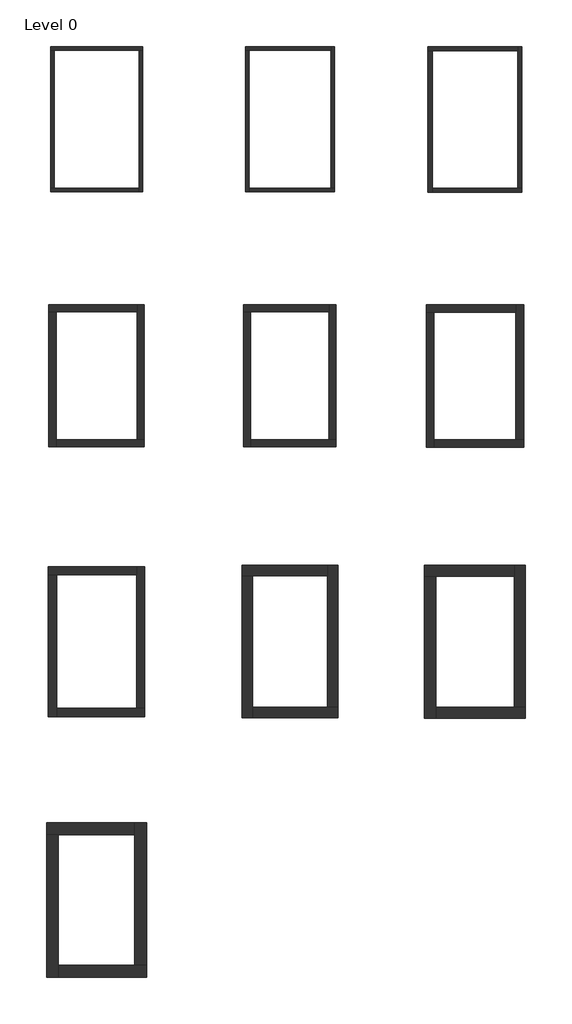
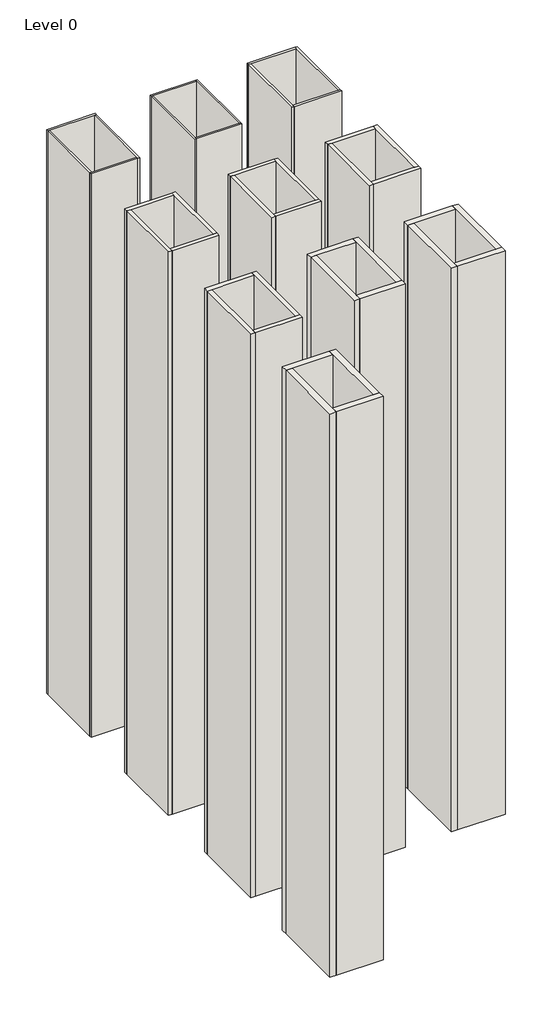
# One storey, incomplete: 40 walls.
"""IFC4 building model written with IfcOpenShell, lengths in millimetres."""

from ifc_helpers import new_model, si_unit, origin, origin_with_axes, place, context, project, spatial, polyline, outline, extrude, faceted_brep, element, save

model = new_model("IFC4")

# Units and contexts
model_context = context("Model", 3, world=origin())
ifc_project = project(units=[si_unit("LENGTHUNIT", "METRE", prefix="MILLI")], contexts=[model_context])

# Site, building, storey
site = spatial("IfcSite", under=ifc_project)
building = spatial("IfcBuilding", under=site)
storey = spatial("IfcBuildingStorey", under=building, Name="Level 0", Elevation=0.0)

# Walls
placement = place(None, origin())
element("IfcWall", 1, ObjectType="D150001 (FL120-1)", at=placement, inside=storey, context=model_context, shape_type="Brep", body=[
    faceted_brep([(-678.8078125, -1024.2025305, 0.0), (-648.8078125, -1024.2025305, 0.0), (-363.8078125, -1024.2025305, 0.0), (-363.8078125, -1024.2025305, 4000.0), (-648.8078125, -1024.2025305, 4000.0), (-678.8078125, -1024.2025305, 4000.0), (-678.8078125, -994.2025305, 0.0), (-678.8078125, -994.2025305, 4000.0), (-363.8078125, -994.2025305, 4000.0), (-363.8078125, -994.2025305, 0.0)], [[[0, 1, 2, 3, 4, 5]], [[6, 7, 8, 9]], [[2, 1, 0, 6, 9]], [[5, 4, 3, 8, 7]], [[0, 5, 7, 6]], [[3, 2, 9, 8]]]),
])
element("IfcWall", 2, ObjectType="D150001 (FL120-1)", at=placement, inside=storey, context=model_context, shape_type="Brep", body=[
    faceted_brep([(-648.8078125, -1530.6175682, 0.0), (-648.8078125, -1500.6175682, 0.0), (-648.8078125, -1024.2025305, 0.0), (-648.8078125, -1024.2025305, 4000.0), (-648.8078125, -1500.6175682, 4000.0), (-648.8078125, -1530.6175682, 4000.0), (-678.8078125, -1530.6175682, 0.0), (-678.8078125, -1530.6175682, 4000.0), (-678.8078125, -1024.2025305, 4000.0), (-678.8078125, -1024.2025305, 0.0)], [[[0, 1, 2, 3, 4, 5]], [[6, 7, 8, 9]], [[2, 1, 0, 6, 9]], [[5, 4, 3, 8, 7]], [[0, 5, 7, 6]], [[3, 2, 9, 8]]]),
])
element("IfcWall", 3, ObjectType="D150001 (FL120-1)", at=placement, inside=storey, context=model_context, shape_type="Brep", body=[
    faceted_brep([(-333.8078125, -1500.6175682, 0.0), (-363.8078125, -1500.6175682, 0.0), (-648.8078125, -1500.6175682, 0.0), (-648.8078125, -1500.6175682, 4000.0), (-363.8078125, -1500.6175682, 4000.0), (-333.8078125, -1500.6175682, 4000.0), (-333.8078125, -1530.6175682, 0.0), (-333.8078125, -1530.6175682, 4000.0), (-648.8078125, -1530.6175682, 4000.0), (-648.8078125, -1530.6175682, 0.0)], [[[0, 1, 2, 3, 4, 5]], [[6, 7, 8, 9]], [[2, 1, 0, 6, 9]], [[5, 4, 3, 8, 7]], [[0, 5, 7, 6]], [[3, 2, 9, 8]]]),
])
element("IfcWall", 4, ObjectType="D150001 (FL120-1)", at=placement, inside=storey, context=model_context, shape_type="Brep", body=[
    faceted_brep([(-363.8078125, -994.2025305, 0.0), (-363.8078125, -1024.2025305, 0.0), (-363.8078125, -1500.6175682, 0.0), (-363.8078125, -1500.6175682, 4000.0), (-363.8078125, -1024.2025305, 4000.0), (-363.8078125, -994.2025305, 4000.0), (-333.8078125, -994.2025305, 0.0), (-333.8078125, -994.2025305, 4000.0), (-333.8078125, -1500.6175682, 4000.0), (-333.8078125, -1500.6175682, 0.0)], [[[0, 1, 2, 3, 4, 5]], [[6, 7, 8, 9]], [[2, 1, 0, 6, 9]], [[5, 4, 3, 8, 7]], [[0, 5, 7, 6]], [[3, 2, 9, 8]]]),
])
element("IfcWall", 5, ObjectType="D150001 (FL120-2)", at=placement, inside=storey, context=model_context, shape_type="Brep", body=[
    faceted_brep([(12.4591754, -1027.9525305, 0.0), (49.9591754, -1027.9525305, 0.0), (318.4182607, -1027.9525305, 0.0), (318.4182607, -1027.9525305, 4000.0), (49.9591754, -1027.9525305, 4000.0), (12.4591754, -1027.9525305, 4000.0), (12.4591754, -990.4525305, 0.0), (12.4591754, -990.4525305, 4000.0), (318.4182607, -990.4525305, 4000.0), (318.4182607, -990.4525305, 0.0)], [[[0, 1, 2, 3, 4, 5]], [[6, 7, 8, 9]], [[2, 1, 0, 6, 9]], [[5, 4, 3, 8, 7]], [[0, 5, 7, 6]], [[3, 2, 9, 8]]]),
])
element("IfcWall", 6, ObjectType="D150001 (FL120-2)", at=placement, inside=storey, context=model_context, shape_type="Brep", body=[
    faceted_brep([(49.9591754, -1534.3675682, 0.0), (49.9591754, -1496.8675682, 0.0), (49.9591754, -1027.9525305, 0.0), (49.9591754, -1027.9525305, 4000.0), (49.9591754, -1496.8675682, 4000.0), (49.9591754, -1534.3675682, 4000.0), (12.4591754, -1534.3675682, 0.0), (12.4591754, -1534.3675682, 4000.0), (12.4591754, -1027.9525305, 4000.0), (12.4591754, -1027.9525305, 0.0)], [[[0, 1, 2, 3, 4, 5]], [[6, 7, 8, 9]], [[2, 1, 0, 6, 9]], [[5, 4, 3, 8, 7]], [[0, 5, 7, 6]], [[3, 2, 9, 8]]]),
])
element("IfcWall", 7, ObjectType="D150001 (FL120-2)", at=placement, inside=storey, context=model_context, shape_type="Brep", body=[
    faceted_brep([(355.9182607, -1496.8675682, 0.0), (318.4182607, -1496.8675682, 0.0), (49.9591754, -1496.8675682, 0.0), (49.9591754, -1496.8675682, 4000.0), (318.4182607, -1496.8675682, 4000.0), (355.9182607, -1496.8675682, 4000.0), (355.9182607, -1534.3675682, 0.0), (355.9182607, -1534.3675682, 4000.0), (49.9591754, -1534.3675682, 4000.0), (49.9591754, -1534.3675682, 0.0)], [[[0, 1, 2, 3, 4, 5]], [[6, 7, 8, 9]], [[2, 1, 0, 6, 9]], [[5, 4, 3, 8, 7]], [[0, 5, 7, 6]], [[3, 2, 9, 8]]]),
])
element("IfcWall", 8, ObjectType="D150001 (FL120-2)", at=placement, inside=storey, context=model_context, shape_type="Brep", body=[
    faceted_brep([(318.4182607, -990.4525305, 0.0), (318.4182607, -1027.9525305, 0.0), (318.4182607, -1496.8675682, 0.0), (318.4182607, -1496.8675682, 4000.0), (318.4182607, -1027.9525305, 4000.0), (318.4182607, -990.4525305, 4000.0), (355.9182607, -990.4525305, 0.0), (355.9182607, -990.4525305, 4000.0), (355.9182607, -1496.8675682, 4000.0), (355.9182607, -1496.8675682, 0.0)], [[[0, 1, 2, 3, 4, 5]], [[6, 7, 8, 9]], [[2, 1, 0, 6, 9]], [[5, 4, 3, 8, 7]], [[0, 5, 7, 6]], [[3, 2, 9, 8]]]),
])
element("IfcWall", 9, ObjectType="D150001 (FL120-3)", at=placement, inside=storey, context=model_context, shape_type="Brep", body=[
    faceted_brep([(665.3285992, -1029.2025305, 0.0), (705.3285992, -1029.2025305, 0.0), (985.3547689, -1029.2025305, 0.0), (985.3547689, -1029.2025305, 4000.0), (705.3285992, -1029.2025305, 4000.0), (665.3285992, -1029.2025305, 4000.0), (665.3285992, -989.2025305, 0.0), (665.3285992, -989.2025305, 4000.0), (985.3547689, -989.2025305, 4000.0), (985.3547689, -989.2025305, 0.0)], [[[0, 1, 2, 3, 4, 5]], [[6, 7, 8, 9]], [[2, 1, 0, 6, 9]], [[5, 4, 3, 8, 7]], [[0, 5, 7, 6]], [[3, 2, 9, 8]]]),
])
element("IfcWall", 10, ObjectType="D150001 (FL120-3)", at=placement, inside=storey, context=model_context, shape_type="Brep", body=[
    faceted_brep([(705.3285992, -1535.6175682, 0.0), (705.3285992, -1495.6175682, 0.0), (705.3285992, -1029.2025305, 0.0), (705.3285992, -1029.2025305, 4000.0), (705.3285992, -1495.6175682, 4000.0), (705.3285992, -1535.6175682, 4000.0), (665.3285992, -1535.6175682, 0.0), (665.3285992, -1535.6175682, 4000.0), (665.3285992, -1029.2025305, 4000.0), (665.3285992, -1029.2025305, 0.0)], [[[0, 1, 2, 3, 4, 5]], [[6, 7, 8, 9]], [[2, 1, 0, 6, 9]], [[5, 4, 3, 8, 7]], [[0, 5, 7, 6]], [[3, 2, 9, 8]]]),
])
element("IfcWall", 11, ObjectType="D150001 (FL120-3)", at=placement, inside=storey, context=model_context, shape_type="Brep", body=[
    faceted_brep([(1025.3547689, -1495.6175682, 0.0), (985.3547689, -1495.6175682, 0.0), (705.3285992, -1495.6175682, 0.0), (705.3285992, -1495.6175682, 4000.0), (985.3547689, -1495.6175682, 4000.0), (1025.3547689, -1495.6175682, 4000.0), (1025.3547689, -1535.6175682, 0.0), (1025.3547689, -1535.6175682, 4000.0), (705.3285992, -1535.6175682, 4000.0), (705.3285992, -1535.6175682, 0.0)], [[[0, 1, 2, 3, 4, 5]], [[6, 7, 8, 9]], [[2, 1, 0, 6, 9]], [[5, 4, 3, 8, 7]], [[0, 5, 7, 6]], [[3, 2, 9, 8]]]),
])
element("IfcWall", 12, ObjectType="D150001 (FL120-3)", at=placement, inside=storey, context=model_context, shape_type="Brep", body=[
    faceted_brep([(985.3547689, -989.2025305, 0.0), (985.3547689, -1029.2025305, 0.0), (985.3547689, -1495.6175682, 0.0), (985.3547689, -1495.6175682, 4000.0), (985.3547689, -1029.2025305, 4000.0), (985.3547689, -989.2025305, 4000.0), (1025.3547689, -989.2025305, 0.0), (1025.3547689, -989.2025305, 4000.0), (1025.3547689, -1495.6175682, 4000.0), (1025.3547689, -1495.6175682, 0.0)], [[[0, 1, 2, 3, 4, 5]], [[6, 7, 8, 9]], [[2, 1, 0, 6, 9]], [[5, 4, 3, 8, 7]], [[0, 5, 7, 6]], [[3, 2, 9, 8]]]),
])
element("IfcWall", 13, ObjectType="D150001 (FL120-4)", at=placement, inside=storey, context=model_context, shape_type="Brep", body=[
    faceted_brep([(-685.0578125, -1950.9152271, 0.0), (-642.5578125, -1950.9152271, 0.0), (-370.0578125, -1950.9152271, 0.0), (-370.0578125, -1950.9152271, 4000.0), (-642.5578125, -1950.9152271, 4000.0), (-685.0578125, -1950.9152271, 4000.0), (-685.0578125, -1908.4152271, 0.0), (-685.0578125, -1908.4152271, 4000.0), (-370.0578125, -1908.4152271, 4000.0), (-370.0578125, -1908.4152271, 0.0)], [[[0, 1, 2, 3, 4, 5]], [[6, 7, 8, 9]], [[2, 1, 0, 6, 9]], [[5, 4, 3, 8, 7]], [[0, 5, 7, 6]], [[3, 2, 9, 8]]]),
])
element("IfcWall", 14, ObjectType="D150001 (FL120-4)", at=placement, inside=storey, context=model_context, shape_type="Brep", body=[
    faceted_brep([(-642.5578125, -2460.4953588, 0.0), (-642.5578125, -2417.9953588, 0.0), (-642.5578125, -1950.9152271, 0.0), (-642.5578125, -1950.9152271, 4000.0), (-642.5578125, -2417.9953588, 4000.0), (-642.5578125, -2460.4953588, 4000.0), (-685.0578125, -2460.4953588, 0.0), (-685.0578125, -2460.4953588, 4000.0), (-685.0578125, -1950.9152271, 4000.0), (-685.0578125, -1950.9152271, 0.0)], [[[0, 1, 2, 3, 4, 5]], [[6, 7, 8, 9]], [[2, 1, 0, 6, 9]], [[5, 4, 3, 8, 7]], [[0, 5, 7, 6]], [[3, 2, 9, 8]]]),
])
element("IfcWall", 15, ObjectType="D150001 (FL120-4)", at=placement, inside=storey, context=model_context, shape_type="Brep", body=[
    faceted_brep([(-327.5578125, -2417.9953588, 0.0), (-370.0578125, -2417.9953588, 0.0), (-642.5578125, -2417.9953588, 0.0), (-642.5578125, -2417.9953588, 4000.0), (-370.0578125, -2417.9953588, 4000.0), (-327.5578125, -2417.9953588, 4000.0), (-327.5578125, -2460.4953588, 0.0), (-327.5578125, -2460.4953588, 4000.0), (-642.5578125, -2460.4953588, 4000.0), (-642.5578125, -2460.4953588, 0.0)], [[[0, 1, 2, 3, 4, 5]], [[6, 7, 8, 9]], [[2, 1, 0, 6, 9]], [[5, 4, 3, 8, 7]], [[0, 5, 7, 6]], [[3, 2, 9, 8]]]),
])
element("IfcWall", 16, ObjectType="D150001 (FL120-4)", at=placement, inside=storey, context=model_context, shape_type="Brep", body=[
    faceted_brep([(-370.0578125, -1908.4152271, 0.0), (-370.0578125, -1950.9152271, 0.0), (-370.0578125, -2417.9953588, 0.0), (-370.0578125, -2417.9953588, 4000.0), (-370.0578125, -1950.9152271, 4000.0), (-370.0578125, -1908.4152271, 4000.0), (-327.5578125, -1908.4152271, 0.0), (-327.5578125, -1908.4152271, 4000.0), (-327.5578125, -2417.9953588, 4000.0), (-327.5578125, -2417.9953588, 0.0)], [[[0, 1, 2, 3, 4, 5]], [[6, 7, 8, 9]], [[2, 1, 0, 6, 9]], [[5, 4, 3, 8, 7]], [[0, 5, 7, 6]], [[3, 2, 9, 8]]]),
])
element("IfcWall", 17, ObjectType="D150001 (FL30-1)", at=placement, inside=storey, context=model_context, shape_type="Brep", body=[
    faceted_brep([(-670.0578125, 847.6610433, 0.0), (-657.5578125, 847.6610433, 0.0), (-355.0578125, 847.6610433, 0.0), (-342.5578125, 847.6610433, 0.0), (-342.5578125, 847.6610433, 4000.0), (-355.0578125, 847.6610433, 4000.0), (-657.5578125, 847.6610433, 4000.0), (-670.0578125, 847.6610433, 4000.0), (-670.0578125, 860.1610433, 0.0), (-670.0578125, 860.1610433, 4000.0), (-342.5578125, 860.1610433, 4000.0), (-342.5578125, 860.1610433, 0.0)], [[[0, 1, 2, 3, 4, 5, 6, 7]], [[8, 9, 10, 11]], [[3, 2, 1, 0, 8, 11]], [[7, 6, 5, 4, 10, 9]], [[4, 3, 11, 10]], [[0, 7, 9, 8]]]),
])
element("IfcWall", 18, ObjectType="D150001 (FL30-1)", at=placement, inside=storey, context=model_context, shape_type="Brep", body=[
    faceted_brep([(-355.0578125, 847.6610433, 0.0), (-355.0578125, 355.1610433, 0.0), (-355.0578125, 342.6610433, 0.0), (-355.0578125, 342.6610433, 4000.0), (-355.0578125, 355.1610433, 4000.0), (-355.0578125, 847.6610433, 4000.0), (-342.5578125, 847.6610433, 0.0), (-342.5578125, 847.6610433, 4000.0), (-342.5578125, 342.6610433, 4000.0), (-342.5578125, 342.6610433, 0.0)], [[[0, 1, 2, 3, 4, 5]], [[6, 7, 8, 9]], [[2, 1, 0, 6, 9]], [[5, 4, 3, 8, 7]], [[0, 5, 7, 6]], [[3, 2, 9, 8]]]),
])
element("IfcWall", 19, ObjectType="D150001 (FL30-1)", at=placement, inside=storey, context=model_context, shape_type="Brep", body=[
    faceted_brep([(-355.0578125, 355.1610433, 0.0), (-657.5578125, 355.1610433, 0.0), (-670.0578125, 355.1610433, 0.0), (-670.0578125, 355.1610433, 4000.0), (-657.5578125, 355.1610433, 4000.0), (-355.0578125, 355.1610433, 4000.0), (-355.0578125, 342.6610433, 0.0), (-355.0578125, 342.6610433, 4000.0), (-670.0578125, 342.6610433, 4000.0), (-670.0578125, 342.6610433, 0.0)], [[[0, 1, 2, 3, 4, 5]], [[6, 7, 8, 9]], [[2, 1, 0, 6, 9]], [[5, 4, 3, 8, 7]], [[0, 5, 7, 6]], [[3, 2, 9, 8]]]),
])
element("IfcWall", 20, ObjectType="D150001 (FL30-1)", at=placement, inside=storey, context=model_context, shape_type="SweptSolid", body=[
    extrude(outline(polyline([(-657.5578125, 847.6610433), (-657.5578125, 355.1610433), (-670.0578125, 355.1610433), (-670.0578125, 847.6610433), (-657.5578125, 847.6610433)])), origin_with_axes(), (0.0, 0.0, 1.0), 4000.0),
])
element("IfcWall", 21, ObjectType="D150001 (FL60-1)", at=placement, inside=storey, context=model_context, shape_type="Brep", body=[
    faceted_brep([(24.9591754, 847.6610433, 0.0), (37.4591754, 847.6610433, 0.0), (330.9182607, 847.6610433, 0.0), (330.9182607, 847.6610433, 4000.0), (37.4591754, 847.6610433, 4000.0), (24.9591754, 847.6610433, 4000.0), (24.9591754, 860.1610433, 0.0), (24.9591754, 860.1610433, 4000.0), (330.9182607, 860.1610433, 4000.0), (330.9182607, 860.1610433, 0.0)], [[[0, 1, 2, 3, 4, 5]], [[6, 7, 8, 9]], [[2, 1, 0, 6, 9]], [[5, 4, 3, 8, 7]], [[0, 5, 7, 6]], [[3, 2, 9, 8]]]),
])
element("IfcWall", 22, ObjectType="D150001 (FL60-1)", at=placement, inside=storey, context=model_context, shape_type="Brep", body=[
    faceted_brep([(37.4591754, 342.6610433, 0.0), (37.4591754, 355.1610433, 0.0), (37.4591754, 847.6610433, 0.0), (37.4591754, 847.6610433, 4000.0), (37.4591754, 355.1610433, 4000.0), (37.4591754, 342.6610433, 4000.0), (24.9591754, 342.6610433, 0.0), (24.9591754, 342.6610433, 4000.0), (24.9591754, 847.6610433, 4000.0), (24.9591754, 847.6610433, 0.0)], [[[0, 1, 2, 3, 4, 5]], [[6, 7, 8, 9]], [[2, 1, 0, 6, 9]], [[5, 4, 3, 8, 7]], [[0, 5, 7, 6]], [[3, 2, 9, 8]]]),
])
element("IfcWall", 23, ObjectType="D150001 (FL60-1)", at=placement, inside=storey, context=model_context, shape_type="Brep", body=[
    faceted_brep([(343.4182607, 355.1610433, 0.0), (330.9182607, 355.1610433, 0.0), (37.4591754, 355.1610433, 0.0), (37.4591754, 355.1610433, 4000.0), (330.9182607, 355.1610433, 4000.0), (343.4182607, 355.1610433, 4000.0), (343.4182607, 342.6610433, 0.0), (343.4182607, 342.6610433, 4000.0), (37.4591754, 342.6610433, 4000.0), (37.4591754, 342.6610433, 0.0)], [[[0, 1, 2, 3, 4, 5]], [[6, 7, 8, 9]], [[2, 1, 0, 6, 9]], [[5, 4, 3, 8, 7]], [[0, 5, 7, 6]], [[3, 2, 9, 8]]]),
])
element("IfcWall", 24, ObjectType="D150001 (FL60-1)", at=placement, inside=storey, context=model_context, shape_type="Brep", body=[
    faceted_brep([(330.9182607, 860.1610433, 0.0), (330.9182607, 847.6610433, 0.0), (330.9182607, 355.1610433, 0.0), (330.9182607, 355.1610433, 4000.0), (330.9182607, 847.6610433, 4000.0), (330.9182607, 860.1610433, 4000.0), (343.4182607, 860.1610433, 0.0), (343.4182607, 860.1610433, 4000.0), (343.4182607, 355.1610433, 4000.0), (343.4182607, 355.1610433, 0.0)], [[[0, 1, 2, 3, 4, 5]], [[6, 7, 8, 9]], [[2, 1, 0, 6, 9]], [[5, 4, 3, 8, 7]], [[0, 5, 7, 6]], [[3, 2, 9, 8]]]),
])
element("IfcWall", 25, ObjectType="D150001 (FL60-2)", at=placement, inside=storey, context=model_context, shape_type="Brep", body=[
    faceted_brep([(677.8285992, 846.4110433, 0.0), (692.8285992, 846.4110433, 0.0), (997.8547689, 846.4110433, 0.0), (997.8547689, 846.4110433, 4000.0), (692.8285992, 846.4110433, 4000.0), (677.8285992, 846.4110433, 4000.0), (677.8285992, 861.4110433, 0.0), (677.8285992, 861.4110433, 4000.0), (997.8547689, 861.4110433, 4000.0), (997.8547689, 861.4110433, 0.0)], [[[0, 1, 2, 3, 4, 5]], [[6, 7, 8, 9]], [[2, 1, 0, 6, 9]], [[5, 4, 3, 8, 7]], [[0, 5, 7, 6]], [[3, 2, 9, 8]]]),
])
element("IfcWall", 26, ObjectType="D150001 (FL60-2)", at=placement, inside=storey, context=model_context, shape_type="Brep", body=[
    faceted_brep([(692.8285992, 341.4110433, 0.0), (692.8285992, 356.4110433, 0.0), (692.8285992, 846.4110433, 0.0), (692.8285992, 846.4110433, 4000.0), (692.8285992, 356.4110433, 4000.0), (692.8285992, 341.4110433, 4000.0), (677.8285992, 341.4110433, 0.0), (677.8285992, 341.4110433, 4000.0), (677.8285992, 846.4110433, 4000.0), (677.8285992, 846.4110433, 0.0)], [[[0, 1, 2, 3, 4, 5]], [[6, 7, 8, 9]], [[2, 1, 0, 6, 9]], [[5, 4, 3, 8, 7]], [[0, 5, 7, 6]], [[3, 2, 9, 8]]]),
])
element("IfcWall", 27, ObjectType="D150001 (FL60-2)", at=placement, inside=storey, context=model_context, shape_type="Brep", body=[
    faceted_brep([(1012.8547689, 356.4110433, 0.0), (997.8547689, 356.4110433, 0.0), (692.8285992, 356.4110433, 0.0), (692.8285992, 356.4110433, 4000.0), (997.8547689, 356.4110433, 4000.0), (1012.8547689, 356.4110433, 4000.0), (1012.8547689, 341.4110433, 0.0), (1012.8547689, 341.4110433, 4000.0), (692.8285992, 341.4110433, 4000.0), (692.8285992, 341.4110433, 0.0)], [[[0, 1, 2, 3, 4, 5]], [[6, 7, 8, 9]], [[2, 1, 0, 6, 9]], [[5, 4, 3, 8, 7]], [[0, 5, 7, 6]], [[3, 2, 9, 8]]]),
])
element("IfcWall", 28, ObjectType="D150001 (FL60-2)", at=placement, inside=storey, context=model_context, shape_type="Brep", body=[
    faceted_brep([(997.8547689, 861.4110433, 0.0), (997.8547689, 846.4110433, 0.0), (997.8547689, 356.4110433, 0.0), (997.8547689, 356.4110433, 4000.0), (997.8547689, 846.4110433, 4000.0), (997.8547689, 861.4110433, 4000.0), (1012.8547689, 861.4110433, 0.0), (1012.8547689, 861.4110433, 4000.0), (1012.8547689, 356.4110433, 4000.0), (1012.8547689, 356.4110433, 0.0)], [[[0, 1, 2, 3, 4, 5]], [[6, 7, 8, 9]], [[2, 1, 0, 6, 9]], [[5, 4, 3, 8, 7]], [[0, 5, 7, 6]], [[3, 2, 9, 8]]]),
])
element("IfcWall", 29, ObjectType="D150001 (FL60-3)", at=placement, inside=storey, context=model_context, shape_type="Brep", body=[
    faceted_brep([(-676.3078125, -85.5967449, 0.0), (-651.3078125, -85.5967449, 0.0), (-361.3078125, -85.5967449, 0.0), (-361.3078125, -85.5967449, 4000.0), (-651.3078125, -85.5967449, 4000.0), (-676.3078125, -85.5967449, 4000.0), (-676.3078125, -60.5967449, 0.0), (-676.3078125, -60.5967449, 4000.0), (-361.3078125, -60.5967449, 4000.0), (-361.3078125, -60.5967449, 0.0)], [[[0, 1, 2, 3, 4, 5]], [[6, 7, 8, 9]], [[2, 1, 0, 6, 9]], [[5, 4, 3, 8, 7]], [[0, 5, 7, 6]], [[3, 2, 9, 8]]]),
])
element("IfcWall", 30, ObjectType="D150001 (FL60-3)", at=placement, inside=storey, context=model_context, shape_type="Brep", body=[
    faceted_brep([(-651.3078125, -567.394385, 0.0), (-651.3078125, -542.394385, 0.0), (-651.3078125, -85.5967449, 0.0), (-651.3078125, -85.5967449, 4000.0), (-651.3078125, -542.394385, 4000.0), (-651.3078125, -567.394385, 4000.0), (-676.3078125, -567.394385, 0.0), (-676.3078125, -567.394385, 4000.0), (-676.3078125, -85.5967449, 4000.0), (-676.3078125, -85.5967449, 0.0)], [[[0, 1, 2, 3, 4, 5]], [[6, 7, 8, 9]], [[2, 1, 0, 6, 9]], [[5, 4, 3, 8, 7]], [[0, 5, 7, 6]], [[3, 2, 9, 8]]]),
])
element("IfcWall", 31, ObjectType="D150001 (FL60-3)", at=placement, inside=storey, context=model_context, shape_type="Brep", body=[
    faceted_brep([(-336.3078125, -542.394385, 0.0), (-361.3078125, -542.394385, 0.0), (-651.3078125, -542.394385, 0.0), (-651.3078125, -542.394385, 4000.0), (-361.3078125, -542.394385, 4000.0), (-336.3078125, -542.394385, 4000.0), (-336.3078125, -567.394385, 0.0), (-336.3078125, -567.394385, 4000.0), (-651.3078125, -567.394385, 4000.0), (-651.3078125, -567.394385, 0.0)], [[[0, 1, 2, 3, 4, 5]], [[6, 7, 8, 9]], [[2, 1, 0, 6, 9]], [[5, 4, 3, 8, 7]], [[0, 5, 7, 6]], [[3, 2, 9, 8]]]),
])
element("IfcWall", 32, ObjectType="D150001 (FL60-3)", at=placement, inside=storey, context=model_context, shape_type="Brep", body=[
    faceted_brep([(-361.3078125, -60.5967449, 0.0), (-361.3078125, -85.5967449, 0.0), (-361.3078125, -542.394385, 0.0), (-361.3078125, -542.394385, 4000.0), (-361.3078125, -85.5967449, 4000.0), (-361.3078125, -60.5967449, 4000.0), (-336.3078125, -60.5967449, 0.0), (-336.3078125, -60.5967449, 4000.0), (-336.3078125, -542.394385, 4000.0), (-336.3078125, -542.394385, 0.0)], [[[0, 1, 2, 3, 4, 5]], [[6, 7, 8, 9]], [[2, 1, 0, 6, 9]], [[5, 4, 3, 8, 7]], [[0, 5, 7, 6]], [[3, 2, 9, 8]]]),
])
element("IfcWall", 33, ObjectType="D150001 (FL90-1)", at=placement, inside=storey, context=model_context, shape_type="Brep", body=[
    faceted_brep([(18.7091754, -85.5967449, 0.0), (43.7091754, -85.5967449, 0.0), (324.6682607, -85.5967449, 0.0), (324.6682607, -85.5967449, 4000.0), (43.7091754, -85.5967449, 4000.0), (18.7091754, -85.5967449, 4000.0), (18.7091754, -60.5967449, 0.0), (18.7091754, -60.5967449, 4000.0), (324.6682607, -60.5967449, 4000.0), (324.6682607, -60.5967449, 0.0)], [[[0, 1, 2, 3, 4, 5]], [[6, 7, 8, 9]], [[2, 1, 0, 6, 9]], [[5, 4, 3, 8, 7]], [[0, 5, 7, 6]], [[3, 2, 9, 8]]]),
])
element("IfcWall", 34, ObjectType="D150001 (FL90-1)", at=placement, inside=storey, context=model_context, shape_type="Brep", body=[
    faceted_brep([(43.7091754, -567.394385, 0.0), (43.7091754, -542.394385, 0.0), (43.7091754, -85.5967449, 0.0), (43.7091754, -85.5967449, 4000.0), (43.7091754, -542.394385, 4000.0), (43.7091754, -567.394385, 4000.0), (18.7091754, -567.394385, 0.0), (18.7091754, -567.394385, 4000.0), (18.7091754, -85.5967449, 4000.0), (18.7091754, -85.5967449, 0.0)], [[[0, 1, 2, 3, 4, 5]], [[6, 7, 8, 9]], [[2, 1, 0, 6, 9]], [[5, 4, 3, 8, 7]], [[0, 5, 7, 6]], [[3, 2, 9, 8]]]),
])
element("IfcWall", 35, ObjectType="D150001 (FL90-1)", at=placement, inside=storey, context=model_context, shape_type="Brep", body=[
    faceted_brep([(349.6682607, -542.394385, 0.0), (324.6682607, -542.394385, 0.0), (43.7091754, -542.394385, 0.0), (43.7091754, -542.394385, 4000.0), (324.6682607, -542.394385, 4000.0), (349.6682607, -542.394385, 4000.0), (349.6682607, -567.394385, 0.0), (349.6682607, -567.394385, 4000.0), (43.7091754, -567.394385, 4000.0), (43.7091754, -567.394385, 0.0)], [[[0, 1, 2, 3, 4, 5]], [[6, 7, 8, 9]], [[2, 1, 0, 6, 9]], [[5, 4, 3, 8, 7]], [[0, 5, 7, 6]], [[3, 2, 9, 8]]]),
])
element("IfcWall", 36, ObjectType="D150001 (FL90-1)", at=placement, inside=storey, context=model_context, shape_type="Brep", body=[
    faceted_brep([(324.6682607, -60.5967449, 0.0), (324.6682607, -85.5967449, 0.0), (324.6682607, -542.394385, 0.0), (324.6682607, -542.394385, 4000.0), (324.6682607, -85.5967449, 4000.0), (324.6682607, -60.5967449, 4000.0), (349.6682607, -60.5967449, 0.0), (349.6682607, -60.5967449, 4000.0), (349.6682607, -542.394385, 4000.0), (349.6682607, -542.394385, 0.0)], [[[0, 1, 2, 3, 4, 5]], [[6, 7, 8, 9]], [[2, 1, 0, 6, 9]], [[5, 4, 3, 8, 7]], [[0, 5, 7, 6]], [[3, 2, 9, 8]]]),
])
element("IfcWall", 37, ObjectType="D150001 (FL90-2)", at=placement, inside=storey, context=model_context, shape_type="Brep", body=[
    faceted_brep([(671.5785992, -86.8467449, 0.0), (699.0785992, -86.8467449, 0.0), (991.6047689, -86.8467449, 0.0), (991.6047689, -86.8467449, 4000.0), (699.0785992, -86.8467449, 4000.0), (671.5785992, -86.8467449, 4000.0), (671.5785992, -59.3467449, 0.0), (671.5785992, -59.3467449, 4000.0), (991.6047689, -59.3467449, 4000.0), (991.6047689, -59.3467449, 0.0)], [[[0, 1, 2, 3, 4, 5]], [[6, 7, 8, 9]], [[2, 1, 0, 6, 9]], [[5, 4, 3, 8, 7]], [[0, 5, 7, 6]], [[3, 2, 9, 8]]]),
])
element("IfcWall", 38, ObjectType="D150001 (FL90-2)", at=placement, inside=storey, context=model_context, shape_type="Brep", body=[
    faceted_brep([(699.0785992, -568.644385, 0.0), (699.0785992, -541.144385, 0.0), (699.0785992, -86.8467449, 0.0), (699.0785992, -86.8467449, 4000.0), (699.0785992, -541.144385, 4000.0), (699.0785992, -568.644385, 4000.0), (671.5785992, -568.644385, 0.0), (671.5785992, -568.644385, 4000.0), (671.5785992, -86.8467449, 4000.0), (671.5785992, -86.8467449, 0.0)], [[[0, 1, 2, 3, 4, 5]], [[6, 7, 8, 9]], [[2, 1, 0, 6, 9]], [[5, 4, 3, 8, 7]], [[0, 5, 7, 6]], [[3, 2, 9, 8]]]),
])
element("IfcWall", 39, ObjectType="D150001 (FL90-2)", at=placement, inside=storey, context=model_context, shape_type="Brep", body=[
    faceted_brep([(1019.1047689, -541.144385, 0.0), (991.6047689, -541.144385, 0.0), (699.0785992, -541.144385, 0.0), (699.0785992, -541.144385, 4000.0), (991.6047689, -541.144385, 4000.0), (1019.1047689, -541.144385, 4000.0), (1019.1047689, -568.644385, 0.0), (1019.1047689, -568.644385, 4000.0), (699.0785992, -568.644385, 4000.0), (699.0785992, -568.644385, 0.0)], [[[0, 1, 2, 3, 4, 5]], [[6, 7, 8, 9]], [[2, 1, 0, 6, 9]], [[5, 4, 3, 8, 7]], [[0, 5, 7, 6]], [[3, 2, 9, 8]]]),
])
element("IfcWall", 40, ObjectType="D150001 (FL90-2)", at=placement, inside=storey, context=model_context, shape_type="Brep", body=[
    faceted_brep([(991.6047689, -59.3467449, 0.0), (991.6047689, -86.8467449, 0.0), (991.6047689, -541.144385, 0.0), (991.6047689, -541.144385, 4000.0), (991.6047689, -86.8467449, 4000.0), (991.6047689, -59.3467449, 4000.0), (1019.1047689, -59.3467449, 0.0), (1019.1047689, -59.3467449, 4000.0), (1019.1047689, -541.144385, 4000.0), (1019.1047689, -541.144385, 0.0)], [[[0, 1, 2, 3, 4, 5]], [[6, 7, 8, 9]], [[2, 1, 0, 6, 9]], [[5, 4, 3, 8, 7]], [[0, 5, 7, 6]], [[3, 2, 9, 8]]]),
])

save(model, "model.ifc")
